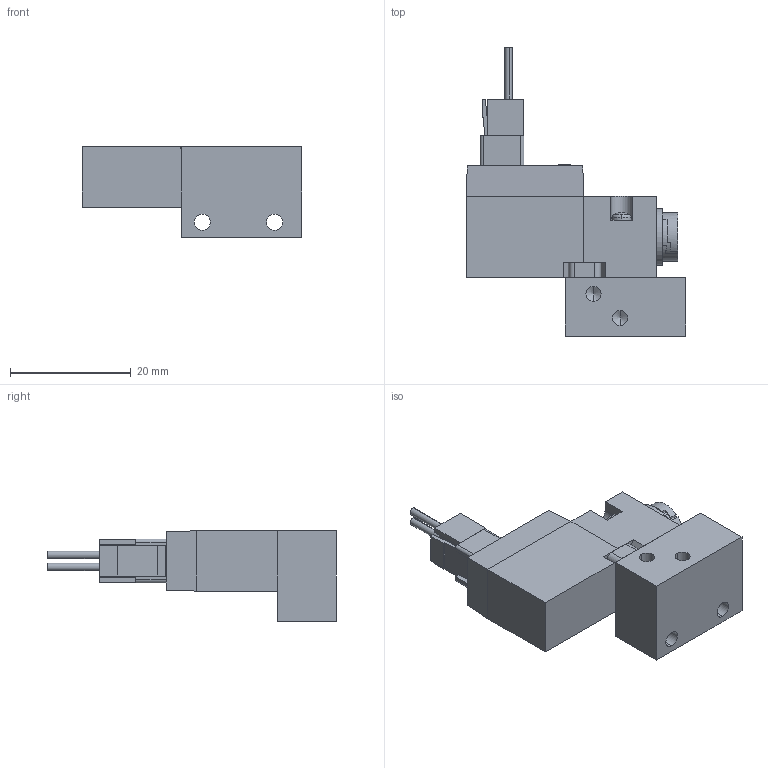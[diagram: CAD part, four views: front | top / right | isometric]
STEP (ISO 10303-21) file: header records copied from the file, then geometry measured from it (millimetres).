
FILE_DESCRIPTION (( 'STEP AP203' ), '1' );
FILE_NAME ('A00SO(C)23-#P.STEP', '2016-02-04T01:45:59', ( 'Sam Lin' ), ( '' ), 'SwSTEP 2.0', 'SolidWorks 2013', '' );
FILE_SCHEMA (( 'CONFIG_CONTROL_DESIGN' ));
Length unit declared in the file: metre
Products named in the file (13): ISO 7045 - M1.6 x 10; 零件10^A05PS25-#-#-#; 零件13^A05PS25-#-#-#; A00S-1; A00SO(C)23-#P; 零件8^A05PS25-#-#-#; 零件5^A05PS25-#-#-#; 零件9^A05PS25-#-#-#; 零件6^A05PS25-#-#-#; 零件11^A05PS25-#-#-#; 零件7^A05PS25-#-#-#; 紅色電線; 黑色電線
Assembly tree (15 placements, depth 2):
  A00SO(C)23-#P
    A00S-1
    零件5^A05PS25-#-#-#
    零件6^A05PS25-#-#-#
    零件7^A05PS25-#-#-#  x2
    零件8^A05PS25-#-#-#
    零件9^A05PS25-#-#-#
    零件11^A05PS25-#-#-#  x2
    紅色電線
    黑色電線
    ISO 7045 - M1.6 x 10  x2
    零件10^A05PS25-#-#-#
    零件13^A05PS25-#-#-#
Bounding box: 36.4 x 47.81 x 15 mm (x, y, z)
Volume: 7795.8 mm3; surface area: 5984.1 mm2
Topology: 16 solids, 16 shells, 350 faces, 867 edges, 553 vertices
Faces by surface type: plane 242, cylinder 66, cone 26, bspline 16
Entity records: 9820 total; most frequent: CARTESIAN_POINT 1739, DIRECTION 1372, ORIENTED_EDGE 1370, EDGE_CURVE 685, VECTOR 476, LINE 476, AXIS2_PLACEMENT_3D 448, VERTEX_POINT 447
